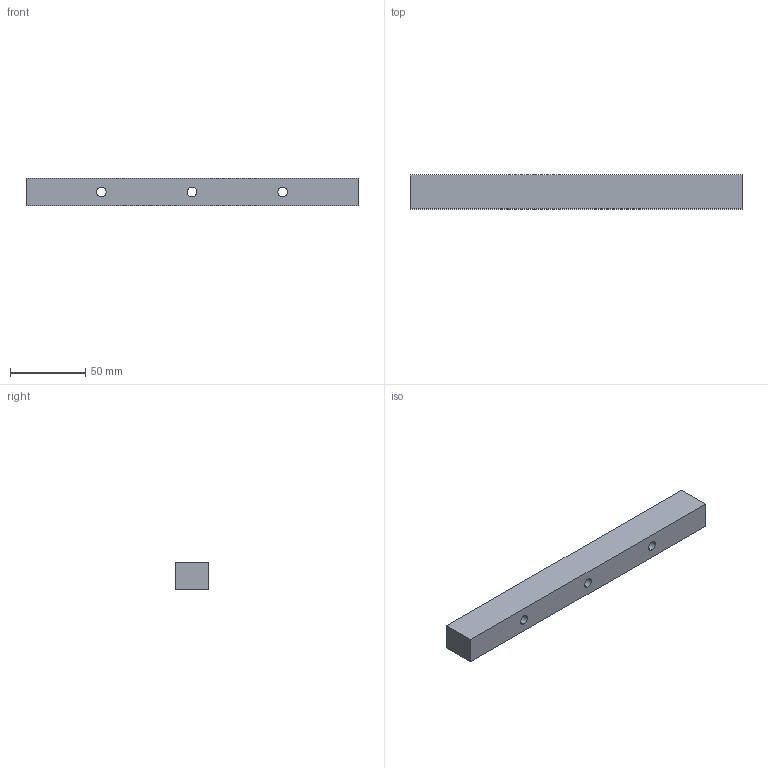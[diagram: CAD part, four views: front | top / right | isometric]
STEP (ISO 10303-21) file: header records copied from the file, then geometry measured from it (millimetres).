
FILE_DESCRIPTION(('CATIA V5 STEP Exchange'),'2;1');
FILE_NAME('D:\姚明阳\1、工装图纸\VDC阀插管工装治具\VDC阀插管工装治具\GZ30.06_V2.stp','2024-11-22T12:01:50+00:00',('none'),('none'),'CATIA Version 5 Release 21 GA (IN-10)','CATIA V5 STEP AP214','none');
FILE_SCHEMA(('AUTOMOTIVE_DESIGN { 1 0 10303 214 1 1 1 1 }'));
Length unit declared in the file: millimetre
Products named in the file (1): 导轨垫块2
Bounding box: 220 x 22.5 x 18 mm (x, y, z)
Volume: 84321.2 mm3; surface area: 20731.4 mm2
Topology: 1 solids, 1 shells, 37 faces, 88 edges, 52 vertices
Faces by surface type: cylinder 20, plane 9, cone 8
Entity records: 1650 total; most frequent: CARTESIAN_POINT 597, ORIENTED_EDGE 160, DIRECTION 131, EDGE_CURVE 80, AXIS2_PLACEMENT_3D 55, VERTEX_POINT 52, EDGE_LOOP 50, VECTOR 40
